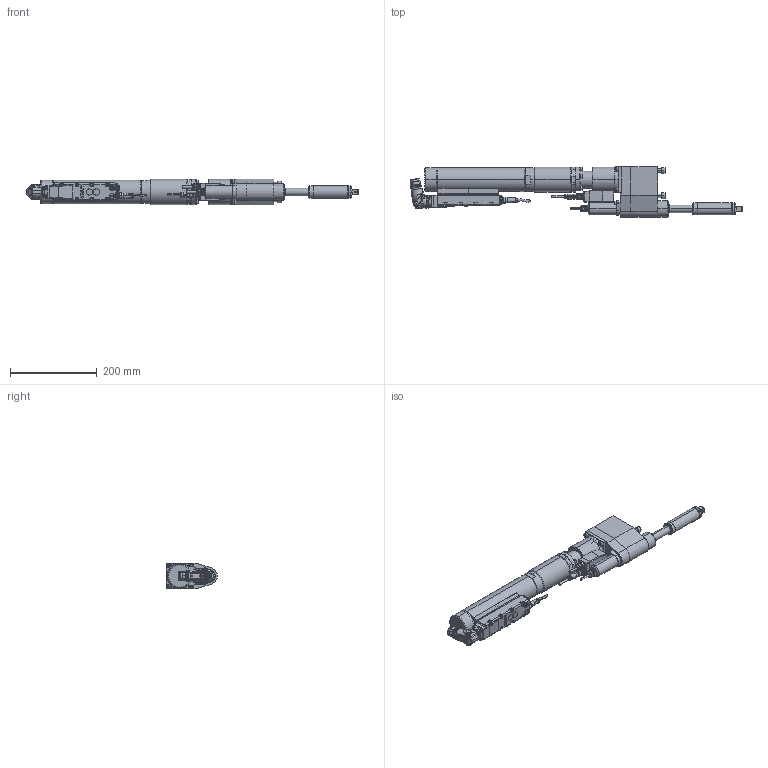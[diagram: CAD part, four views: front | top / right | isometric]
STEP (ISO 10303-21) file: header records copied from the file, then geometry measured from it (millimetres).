
FILE_DESCRIPTION (( 'STEP AP214' ), '1' );
FILE_NAME ('70082489_ESX213ZWRX140AODX250-140.STEP', '2018-11-28T08:38:49', ( 'admin' ), ( '' ), 'SwSTEP 2.0', 'SolidWorks 2017', '' );
FILE_SCHEMA (( 'AUTOMOTIVE_DESIGN' ));
Length unit declared in the file: millimetre
Products named in the file (11): 70082332; 70082304_ESX213_Standard_Winkel; 70082293_2; 70057493_Standard_winkel; 70057493_4; 70057493_3; 70057493_2; 70082304; 70082489_ESX213ZWRX140AODX250-140; 7002049_3; 70082382
Assembly tree (10 placements, depth 4):
  70082489_ESX213ZWRX140AODX250-140
    70082304_ESX213_Standard_Winkel
      70082304
      70057493_Standard_winkel
        70057493_2
        70057493_3
        70057493_4
      70082293_2
    70082332
    70082382
    7002049_3
Bounding box: 766.96 x 117.32 x 60 mm (x, y, z)
Volume: 2104511.7 mm3; surface area: 241407.3 mm2
Topology: 12 solids, 13 shells, 3188 faces, 8216 edges, 5210 vertices
Faces by surface type: plane 1334, cylinder 925, cone 484, bspline 307, torus 133, sphere 5
Entity records: 112773 total; most frequent: CARTESIAN_POINT 35038, ORIENTED_EDGE 16244, DIRECTION 14612, EDGE_CURVE 8122, AXIS2_PLACEMENT_3D 5490, VERTEX_POINT 5209, VECTOR 3632, LINE 3632
